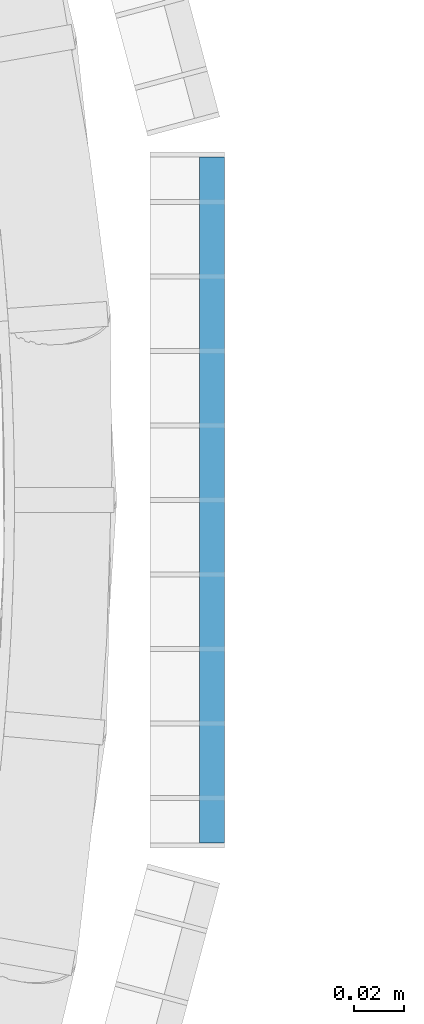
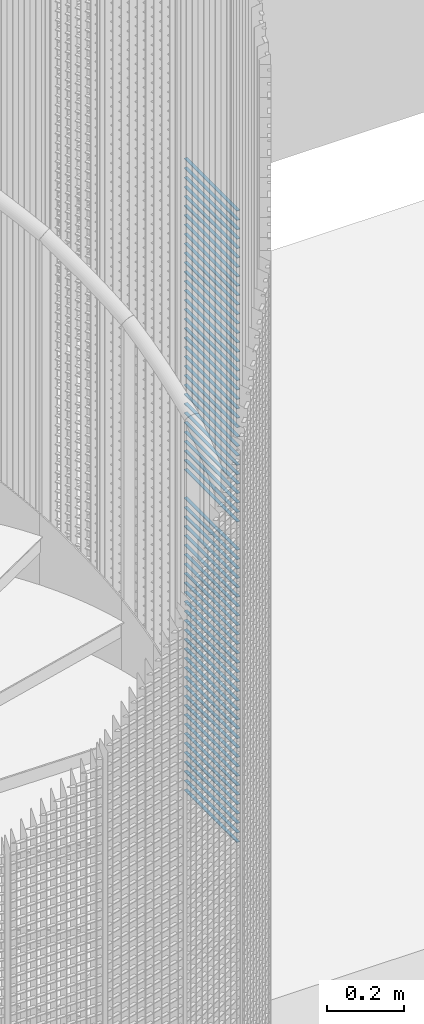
# One storey, part 290 of 1183: 66 beams, 1 element without a shape of its own.
"""IFC2X3 building model written with IfcOpenShell, lengths in millimetres."""

import ifcopenshell
import ifcopenshell.guid

model = None  # the IFC model being written
_history = None  # IfcOwnerHistory: only IFC2X3 demands one
_inside = {}  # id of a spatial element -> (the spatial element, [elements in it])
_under = {}  # id of a project, library or spatial element -> (it, [spatial elements below it])
_declared = {}  # id of a project -> (the project, [libraries it declares])
_typed = {}  # id of a type object -> (the type object, [elements of that type])
_made_of = {}  # id of a material, layer set ... -> (it, [elements and type objects made of it])


def new_model(schema):
    """Start an empty IFC model of exactly this schema.

    Asked for "IFC4X3", IfcOpenShell would pick the latest addendum, in which some entities
    have other attributes; the version numbers below select the first issue.
    IFC2X3 requires an IfcOwnerHistory on every rooted entity: one is made here for all.
    """
    global model, _history
    if schema == "IFC4X3":
        model = ifcopenshell.file(schema_version=(4, 3, 0, 0))
    else:
        model = ifcopenshell.file(schema=schema)
    _inside.clear()
    _under.clear()
    _declared.clear()
    _typed.clear()
    _made_of.clear()
    _history = None
    if model.schema == "IFC2X3":
        org = make("IfcOrganization", Name="unknown")
        user = make(
            "IfcPersonAndOrganization",
            ThePerson=make("IfcPerson", FamilyName="unknown"),
            TheOrganization=org,
        )
        app = make(
            "IfcApplication",
            ApplicationDeveloper=org,
            Version="unknown",
            ApplicationFullName="unknown",
            ApplicationIdentifier="unknown",
        )
        _history = make(
            "IfcOwnerHistory",
            OwningUser=user,
            OwningApplication=app,
            ChangeAction="ADDED",
            CreationDate=0,
        )
    return model


def make(cls, **values):
    """One entity of the class cls with the attributes given. An attribute that is None is left unset."""
    return model.create_entity(
        cls, **{name: value for name, value in values.items() if value is not None}
    )


def rooted(cls, **values):
    """An entity with a GlobalId (a new one), such as an element, a storey or a relation."""
    return make(cls, GlobalId=ifcopenshell.guid.new(), OwnerHistory=_history, **values)


def si_unit(unit_type, name, prefix=None):
    """IfcSIUnit, for example si_unit("LENGTHUNIT", "METRE", prefix="MILLI")."""
    return make("IfcSIUnit", UnitType=unit_type, Prefix=prefix, Name=name)


def assignment(units):
    """IfcUnitAssignment: the units of a project."""
    return None if units is None else make("IfcUnitAssignment", Units=units)


def point(xyz):
    """IfcCartesianPoint."""
    return None if xyz is None else make("IfcCartesianPoint", Coordinates=xyz)


def direction(xyz):
    """IfcDirection."""
    return None if xyz is None else make("IfcDirection", DirectionRatios=xyz)


def frame(location, z_axis=None, x_axis=None):
    """IfcAxis2Placement3D, a coordinate frame: its origin and axes. An axis left out is left unset."""
    return make(
        "IfcAxis2Placement3D",
        Location=point(location),
        Axis=direction(z_axis),
        RefDirection=direction(x_axis),
    )


def frame_2d(location, x_axis=None):
    """IfcAxis2Placement2D, a coordinate frame in the plane: its origin and x axis."""
    return make(
        "IfcAxis2Placement2D", Location=point(location), RefDirection=direction(x_axis)
    )


def origin_with_axes():
    """The frame at (0, 0, 0) with the z axis (0, 0, 1) and the x axis (1, 0, 0) written out."""
    return frame((0.0, 0.0, 0.0), z_axis=(0.0, 0.0, 1.0), x_axis=(1.0, 0.0, 0.0))


def origin_2d_with_axis():
    """The frame at (0, 0) in the plane with the x axis (1, 0) written out."""
    return frame_2d((0.0, 0.0), x_axis=(1.0, 0.0))


def place(relative_to, where):
    """IfcLocalPlacement: puts the frame where relative to a parent placement (None: the world)."""
    return make(
        "IfcLocalPlacement", PlacementRelTo=relative_to, RelativePlacement=where
    )


def context(
    kind, dimensions, precision=None, world=None, true_north=None, identifier=None
):
    """IfcGeometricRepresentationContext, for example the 3D "Model" context."""
    return make(
        "IfcGeometricRepresentationContext",
        ContextIdentifier=identifier,
        ContextType=kind,
        CoordinateSpaceDimension=dimensions,
        Precision=precision,
        WorldCoordinateSystem=world,
        TrueNorth=true_north,
    )


def subcontext(parent, identifier, kind, view, scale=None):
    """IfcGeometricRepresentationSubContext, for example "Body" below "Model"."""
    return make(
        "IfcGeometricRepresentationSubContext",
        ContextIdentifier=identifier,
        ContextType=kind,
        ParentContext=parent,
        TargetScale=scale,
        TargetView=view,
    )


def project(units=None, contexts=None):
    """IfcProject with its units and contexts."""
    return rooted(
        "IfcProject",
        Name="project",
        RepresentationContexts=contexts,
        UnitsInContext=assignment(units),
    )


def spatial(cls, under=None, at=None, **own):
    """A site, building, storey or space (cls), placed at a placement, below another one or the project."""
    s = rooted(cls, ObjectPlacement=at, **own)
    if under is not None:
        _under.setdefault(under.id(), (under, []))[1].append(s)
    return s


def profile(cls, at=None, kind="AREA", **sizes):
    """A parametric profile (cls). Its sizes go by their IFC names, for example OverallWidth=200.0."""
    return make(cls, ProfileType=kind, Position=at, **sizes)


def rectangle(**sizes):
    """IfcRectangleProfileDef."""
    return profile("IfcRectangleProfileDef", **sizes)


def extrude(swept, where, along, depth):
    """IfcExtrudedAreaSolid: the profile swept, set in the frame where, extruded along a direction by depth."""
    return make(
        "IfcExtrudedAreaSolid",
        SweptArea=swept,
        Position=where,
        ExtrudedDirection=direction(along),
        Depth=depth,
    )


def shape(context_of_items, identifier, shape_type, items):
    """IfcShapeRepresentation: the items that make up one representation, for example the "Body"."""
    return make(
        "IfcShapeRepresentation",
        ContextOfItems=context_of_items,
        RepresentationIdentifier=identifier,
        RepresentationType=shape_type,
        Items=items,
    )


def material(Name=None, Category=None):
    """IfcMaterial."""
    return make("IfcMaterial", Name=Name, Category=Category)


def made_of(thing, what):
    """Note that an element or type object is made of a material, layer set ...; save() writes the relation."""
    if what is not None:
        _made_of.setdefault(what.id(), (what, []))[1].append(thing)
    return thing


def type_object(cls, material=None, **own):
    """A type object (cls), such as IfcWallType, which elements share."""
    return made_of(rooted(cls, **own), material)


def element(
    cls,
    number,
    at=None,
    inside=None,
    cuts=None,
    type_object=None,
    material=None,
    context=None,
    identifier="Body",
    shape_type=None,
    held_by="IfcProductDefinitionShape",
    body=None,
    shapes=None,
    **own,
):
    """One element of the class cls, such as IfcWall. Its Tag is "e" and its number.

    at: its placement. inside: the storey or other place that contains it. cuts: it is an
    opening in that element (IfcRelVoidsElement). A single representation is given by context,
    identifier, shape_type and body (its items); several are given by shapes. held_by: the class
    of the entity that holds the representations. save() writes the other relations.
    """
    e = rooted(cls, Tag="e%d" % number, ObjectPlacement=at, **own)
    if body is not None:
        shapes = [shape(context, identifier, shape_type, body)]
    if shapes is not None:
        e.Representation = make(held_by, Representations=shapes)
    if inside is not None:
        _inside.setdefault(inside.id(), (inside, []))[1].append(e)
    if cuts is not None:
        rooted(
            "IfcRelVoidsElement", RelatingBuildingElement=cuts, RelatedOpeningElement=e
        )
    if type_object is not None:
        _typed.setdefault(type_object.id(), (type_object, []))[1].append(e)
    return made_of(e, material)


def aggregate(whole, parts):
    """IfcRelAggregates: a whole, such as a stair, and the parts it consists of."""
    return rooted("IfcRelAggregates", RelatingObject=whole, RelatedObjects=parts)


def save(model, path):
    """Write the relations noted so far, then the file.

    IfcRelAggregates (storeys below a building ...), IfcRelContainedInSpatialStructure (elements
    in a storey), IfcRelDefinesByType, IfcRelAssociatesMaterial and IfcRelDeclares: one each for
    every whole, place, type object, material and project.
    """
    for whole, parts in _under.values():
        aggregate(whole, parts)
    for where, things in _inside.values():
        rooted(
            "IfcRelContainedInSpatialStructure",
            RelatedElements=things,
            RelatingStructure=where,
        )
    for kind, things in _typed.values():
        rooted("IfcRelDefinesByType", RelatedObjects=things, RelatingType=kind)
    for what, things in _made_of.values():
        rooted("IfcRelAssociatesMaterial", RelatedObjects=things, RelatingMaterial=what)
    for by, libraries in _declared.values():
        rooted("IfcRelDeclares", RelatingContext=by, RelatedDefinitions=libraries)
    model.write(path)


model = new_model("IFC2X3")

# Units and contexts
model_context = context("Model", 3, precision=1e-05, world=origin_with_axes())
body_context = subcontext(model_context, "Body", "Model", "MODEL_VIEW")
ifc_project = project(units=[si_unit("LENGTHUNIT", "METRE", prefix="MILLI"), si_unit("AREAUNIT", "SQUARE_METRE"), si_unit("VOLUMEUNIT", "CUBIC_METRE"), si_unit("MASSUNIT", "GRAM", prefix="KILO"), si_unit("TIMEUNIT", "SECOND"), si_unit("PLANEANGLEUNIT", "RADIAN"), si_unit("SOLIDANGLEUNIT", "STERADIAN"), si_unit("THERMODYNAMICTEMPERATUREUNIT", "DEGREE_CELSIUS"), si_unit("LUMINOUSINTENSITYUNIT", "LUMEN")], contexts=[model_context])

# Site, building, storey
site_placement = place(None, origin_with_axes())
site = spatial("IfcSite", under=ifc_project, at=site_placement, Name="Undefined", CompositionType="ELEMENT")
building_placement = place(site_placement, origin_with_axes())
building = spatial("IfcBuilding", under=site, at=building_placement, Name="Undefined", CompositionType="ELEMENT")
storey_placement = place(building_placement, origin_with_axes())
storey = spatial("IfcBuildingStorey", under=building, at=storey_placement, Name="Undefined", CompositionType="ELEMENT", Elevation=0.0)

# Assembly, beams
assembly_placement = place(storey_placement, origin_with_axes())
assembly = element("IfcElementAssembly", 1, at=assembly_placement, inside=storey, Name="BORDURE", AssemblyPlace="NOTDEFINED", PredefinedType="NOTDEFINED")
ifc_material = material(Name="STEEL/S235JR")
beam_type = type_object("IfcBeamType", Name="PL2*10", PredefinedType="NOTDEFINED")
beam_1_placement = place(assembly_placement, frame((1113.47999999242, -137.996003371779, 11130.0), z_axis=(1.0, 0.0, 0.0), x_axis=(0.0, 1.0, 0.0)))
beam_1 = element("IfcBeam", 2, at=beam_1_placement, type_object=beam_type, material=ifc_material, Name="ENTRETOISE", context=body_context, shape_type="SweptSolid", body=[
    extrude(rectangle(XDim=2.0, YDim=10.0, at=origin_2d_with_axis()), frame((275.999999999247, 9.09494701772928e-13, 1.53210777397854e-14), z_axis=(-1.0, 0.0, 0.0), x_axis=(0.0, -1.0, 0.0)), (0.0, 0.0, 1.0), 276.0),
])
beam_2_placement = place(assembly_placement, frame((1113.47999999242, -137.996003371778, 11100.0), z_axis=(1.0, 0.0, 0.0), x_axis=(0.0, 1.0, 0.0)))
beam_2 = element("IfcBeam", 3, at=beam_2_placement, type_object=beam_type, material=ifc_material, Name="ENTRETOISE", context=body_context, shape_type="SweptSolid", body=[
    extrude(rectangle(XDim=2.0, YDim=10.0, at=origin_2d_with_axis()), frame((275.999999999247, 9.09494701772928e-13, 1.53210777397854e-14), z_axis=(-1.0, 0.0, 0.0), x_axis=(0.0, -1.0, 0.0)), (0.0, 0.0, 1.0), 276.0),
])
beam_3_placement = place(assembly_placement, frame((1113.47999999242, -137.996003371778, 11070.0), z_axis=(1.0, 0.0, 0.0), x_axis=(0.0, 1.0, 0.0)))
beam_3 = element("IfcBeam", 4, at=beam_3_placement, type_object=beam_type, material=ifc_material, Name="ENTRETOISE", context=body_context, shape_type="SweptSolid", body=[
    extrude(rectangle(XDim=2.0, YDim=10.0, at=origin_2d_with_axis()), frame((275.999999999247, 9.09494701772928e-13, 1.53210777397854e-14), z_axis=(-1.0, 0.0, 0.0), x_axis=(0.0, -1.0, 0.0)), (0.0, 0.0, 1.0), 276.0),
])
beam_4_placement = place(assembly_placement, frame((1113.47999999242, -137.996003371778, 11040.0), z_axis=(1.0, 0.0, 0.0), x_axis=(0.0, 1.0, 0.0)))
beam_4 = element("IfcBeam", 5, at=beam_4_placement, type_object=beam_type, material=ifc_material, Name="ENTRETOISE", context=body_context, shape_type="SweptSolid", body=[
    extrude(rectangle(XDim=2.0, YDim=10.0, at=origin_2d_with_axis()), frame((275.999999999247, 9.09494701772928e-13, 1.53210777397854e-14), z_axis=(-1.0, 0.0, 0.0), x_axis=(0.0, -1.0, 0.0)), (0.0, 0.0, 1.0), 276.0),
])
beam_5_placement = place(assembly_placement, frame((1113.47999999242, -137.996003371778, 11010.0), z_axis=(1.0, 0.0, 0.0), x_axis=(0.0, 1.0, 0.0)))
beam_5 = element("IfcBeam", 6, at=beam_5_placement, type_object=beam_type, material=ifc_material, Name="ENTRETOISE", context=body_context, shape_type="SweptSolid", body=[
    extrude(rectangle(XDim=2.0, YDim=10.0, at=origin_2d_with_axis()), frame((275.999999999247, 9.09494701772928e-13, 1.53210777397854e-14), z_axis=(-1.0, 0.0, 0.0), x_axis=(0.0, -1.0, 0.0)), (0.0, 0.0, 1.0), 276.0),
])
beam_6_placement = place(assembly_placement, frame((1113.47999999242, -137.996003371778, 10980.0), z_axis=(1.0, 0.0, 0.0), x_axis=(0.0, 1.0, 0.0)))
beam_6 = element("IfcBeam", 7, at=beam_6_placement, type_object=beam_type, material=ifc_material, Name="ENTRETOISE", context=body_context, shape_type="SweptSolid", body=[
    extrude(rectangle(XDim=2.0, YDim=10.0, at=origin_2d_with_axis()), frame((275.999999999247, 9.09494701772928e-13, 1.53210777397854e-14), z_axis=(-1.0, 0.0, 0.0), x_axis=(0.0, -1.0, 0.0)), (0.0, 0.0, 1.0), 276.0),
])
beam_7_placement = place(assembly_placement, frame((1113.47999999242, -137.996003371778, 10950.0), z_axis=(1.0, 0.0, 0.0), x_axis=(0.0, 1.0, 0.0)))
beam_7 = element("IfcBeam", 8, at=beam_7_placement, type_object=beam_type, material=ifc_material, Name="ENTRETOISE", context=body_context, shape_type="SweptSolid", body=[
    extrude(rectangle(XDim=2.0, YDim=10.0, at=origin_2d_with_axis()), frame((275.999999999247, 9.09494701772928e-13, 1.53210777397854e-14), z_axis=(-1.0, 0.0, 0.0), x_axis=(0.0, -1.0, 0.0)), (0.0, 0.0, 1.0), 276.0),
])
beam_8_placement = place(assembly_placement, frame((1113.47999999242, -137.996003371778, 10920.0), z_axis=(1.0, 0.0, 0.0), x_axis=(0.0, 1.0, 0.0)))
beam_8 = element("IfcBeam", 9, at=beam_8_placement, type_object=beam_type, material=ifc_material, Name="ENTRETOISE", context=body_context, shape_type="SweptSolid", body=[
    extrude(rectangle(XDim=2.0, YDim=10.0, at=origin_2d_with_axis()), frame((275.999999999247, 9.09494701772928e-13, 1.53210777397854e-14), z_axis=(-1.0, 0.0, 0.0), x_axis=(0.0, -1.0, 0.0)), (0.0, 0.0, 1.0), 276.0),
])
beam_9_placement = place(assembly_placement, frame((1113.47999999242, -137.996003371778, 10890.0), z_axis=(1.0, 0.0, 0.0), x_axis=(0.0, 1.0, 0.0)))
beam_9 = element("IfcBeam", 10, at=beam_9_placement, type_object=beam_type, material=ifc_material, Name="ENTRETOISE", context=body_context, shape_type="SweptSolid", body=[
    extrude(rectangle(XDim=2.0, YDim=10.0, at=origin_2d_with_axis()), frame((275.999999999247, 9.09494701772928e-13, 1.53210777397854e-14), z_axis=(-1.0, 0.0, 0.0), x_axis=(0.0, -1.0, 0.0)), (0.0, 0.0, 1.0), 276.0),
])
beam_10_placement = place(assembly_placement, frame((1113.47999999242, -137.996003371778, 10860.0), z_axis=(1.0, 0.0, 0.0), x_axis=(0.0, 1.0, 0.0)))
beam_10 = element("IfcBeam", 11, at=beam_10_placement, type_object=beam_type, material=ifc_material, Name="ENTRETOISE", context=body_context, shape_type="SweptSolid", body=[
    extrude(rectangle(XDim=2.0, YDim=10.0, at=origin_2d_with_axis()), frame((275.999999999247, 9.09494701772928e-13, 1.53210777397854e-14), z_axis=(-1.0, 0.0, 0.0), x_axis=(0.0, -1.0, 0.0)), (0.0, 0.0, 1.0), 276.0),
])
beam_11_placement = place(assembly_placement, frame((1113.47999999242, -137.996003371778, 10830.0), z_axis=(1.0, 0.0, 0.0), x_axis=(0.0, 1.0, 0.0)))
beam_11 = element("IfcBeam", 12, at=beam_11_placement, type_object=beam_type, material=ifc_material, Name="ENTRETOISE", context=body_context, shape_type="SweptSolid", body=[
    extrude(rectangle(XDim=2.0, YDim=10.0, at=origin_2d_with_axis()), frame((275.999999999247, 9.09494701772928e-13, 1.53210777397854e-14), z_axis=(-1.0, 0.0, 0.0), x_axis=(0.0, -1.0, 0.0)), (0.0, 0.0, 1.0), 276.0),
])
beam_12_placement = place(assembly_placement, frame((1113.47999999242, -137.996003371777, 10800.0), z_axis=(1.0, 0.0, 0.0), x_axis=(0.0, 1.0, 0.0)))
beam_12 = element("IfcBeam", 13, at=beam_12_placement, type_object=beam_type, material=ifc_material, Name="ENTRETOISE", context=body_context, shape_type="SweptSolid", body=[
    extrude(rectangle(XDim=2.0, YDim=10.0, at=origin_2d_with_axis()), frame((275.999999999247, 9.09494701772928e-13, 1.53210777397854e-14), z_axis=(-1.0, 0.0, 0.0), x_axis=(0.0, -1.0, 0.0)), (0.0, 0.0, 1.0), 276.0),
])
beam_13_placement = place(assembly_placement, frame((1113.47999999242, -137.996003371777, 10770.0), z_axis=(1.0, 0.0, 0.0), x_axis=(0.0, 1.0, 0.0)))
beam_13 = element("IfcBeam", 14, at=beam_13_placement, type_object=beam_type, material=ifc_material, Name="ENTRETOISE", context=body_context, shape_type="SweptSolid", body=[
    extrude(rectangle(XDim=2.0, YDim=10.0, at=origin_2d_with_axis()), frame((275.999999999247, 9.09494701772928e-13, 1.53210777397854e-14), z_axis=(-1.0, 0.0, 0.0), x_axis=(0.0, -1.0, 0.0)), (0.0, 0.0, 1.0), 276.0),
])
beam_14_placement = place(assembly_placement, frame((1113.47999999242, -137.996003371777, 10740.0), z_axis=(1.0, 0.0, 0.0), x_axis=(0.0, 1.0, 0.0)))
beam_14 = element("IfcBeam", 15, at=beam_14_placement, type_object=beam_type, material=ifc_material, Name="ENTRETOISE", context=body_context, shape_type="SweptSolid", body=[
    extrude(rectangle(XDim=2.0, YDim=10.0, at=origin_2d_with_axis()), frame((275.999999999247, 9.09494701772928e-13, 1.53210777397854e-14), z_axis=(-1.0, 0.0, 0.0), x_axis=(0.0, -1.0, 0.0)), (0.0, 0.0, 1.0), 276.0),
])
beam_15_placement = place(assembly_placement, frame((1113.47999999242, -137.996003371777, 10710.0), z_axis=(1.0, 0.0, 0.0), x_axis=(0.0, 1.0, 0.0)))
beam_15 = element("IfcBeam", 16, at=beam_15_placement, type_object=beam_type, material=ifc_material, Name="ENTRETOISE", context=body_context, shape_type="SweptSolid", body=[
    extrude(rectangle(XDim=2.0, YDim=10.0, at=origin_2d_with_axis()), frame((275.999999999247, 9.09494701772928e-13, 1.53210777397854e-14), z_axis=(-1.0, 0.0, 0.0), x_axis=(0.0, -1.0, 0.0)), (0.0, 0.0, 1.0), 276.0),
])
beam_16_placement = place(assembly_placement, frame((1113.47999999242, -137.996003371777, 10680.0), z_axis=(1.0, 0.0, 0.0), x_axis=(0.0, 1.0, 0.0)))
beam_16 = element("IfcBeam", 17, at=beam_16_placement, type_object=beam_type, material=ifc_material, Name="ENTRETOISE", context=body_context, shape_type="SweptSolid", body=[
    extrude(rectangle(XDim=2.0, YDim=10.0, at=origin_2d_with_axis()), frame((275.999999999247, 9.09494701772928e-13, 1.53210777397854e-14), z_axis=(-1.0, 0.0, 0.0), x_axis=(0.0, -1.0, 0.0)), (0.0, 0.0, 1.0), 276.0),
])
beam_17_placement = place(assembly_placement, frame((1113.47999999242, -137.996003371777, 10650.0), z_axis=(1.0, 0.0, 0.0), x_axis=(0.0, 1.0, 0.0)))
beam_17 = element("IfcBeam", 18, at=beam_17_placement, type_object=beam_type, material=ifc_material, Name="ENTRETOISE", context=body_context, shape_type="SweptSolid", body=[
    extrude(rectangle(XDim=2.0, YDim=10.0, at=origin_2d_with_axis()), frame((275.999999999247, 9.09494701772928e-13, 1.53210777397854e-14), z_axis=(-1.0, 0.0, 0.0), x_axis=(0.0, -1.0, 0.0)), (0.0, 0.0, 1.0), 276.0),
])
beam_18_placement = place(assembly_placement, frame((1113.47999999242, -137.996003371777, 10620.0), z_axis=(1.0, 0.0, 0.0), x_axis=(0.0, 1.0, 0.0)))
beam_18 = element("IfcBeam", 19, at=beam_18_placement, type_object=beam_type, material=ifc_material, Name="ENTRETOISE", context=body_context, shape_type="SweptSolid", body=[
    extrude(rectangle(XDim=2.0, YDim=10.0, at=origin_2d_with_axis()), frame((275.999999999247, 9.09494701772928e-13, 1.53210777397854e-14), z_axis=(-1.0, 0.0, 0.0), x_axis=(0.0, -1.0, 0.0)), (0.0, 0.0, 1.0), 276.0),
])
beam_19_placement = place(assembly_placement, frame((1113.47999999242, -137.996003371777, 10590.0), z_axis=(1.0, 0.0, 0.0), x_axis=(0.0, 1.0, 0.0)))
beam_19 = element("IfcBeam", 20, at=beam_19_placement, type_object=beam_type, material=ifc_material, Name="ENTRETOISE", context=body_context, shape_type="SweptSolid", body=[
    extrude(rectangle(XDim=2.0, YDim=10.0, at=origin_2d_with_axis()), frame((275.999999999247, 9.09494701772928e-13, 1.53210777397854e-14), z_axis=(-1.0, 0.0, 0.0), x_axis=(0.0, -1.0, 0.0)), (0.0, 0.0, 1.0), 276.0),
])
beam_20_placement = place(assembly_placement, frame((1113.47999999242, -137.996003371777, 10560.0), z_axis=(1.0, 0.0, 0.0), x_axis=(0.0, 1.0, 0.0)))
beam_20 = element("IfcBeam", 21, at=beam_20_placement, type_object=beam_type, material=ifc_material, Name="ENTRETOISE", context=body_context, shape_type="SweptSolid", body=[
    extrude(rectangle(XDim=2.0, YDim=10.0, at=origin_2d_with_axis()), frame((275.999999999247, 9.09494701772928e-13, 1.53210777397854e-14), z_axis=(-1.0, 0.0, 0.0), x_axis=(0.0, -1.0, 0.0)), (0.0, 0.0, 1.0), 276.0),
])
beam_21_placement = place(assembly_placement, frame((1113.47999999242, -137.996003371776, 10530.0), z_axis=(1.0, 0.0, 0.0), x_axis=(0.0, 1.0, 0.0)))
beam_21 = element("IfcBeam", 22, at=beam_21_placement, type_object=beam_type, material=ifc_material, Name="ENTRETOISE", context=body_context, shape_type="SweptSolid", body=[
    extrude(rectangle(XDim=2.0, YDim=10.0, at=origin_2d_with_axis()), frame((275.999999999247, 9.09494701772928e-13, 1.53210777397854e-14), z_axis=(-1.0, 0.0, 0.0), x_axis=(0.0, -1.0, 0.0)), (0.0, 0.0, 1.0), 276.0),
])
beam_22_placement = place(assembly_placement, frame((1113.47999999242, -137.996003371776, 10500.0), z_axis=(1.0, 0.0, 0.0), x_axis=(0.0, 1.0, 0.0)))
beam_22 = element("IfcBeam", 23, at=beam_22_placement, type_object=beam_type, material=ifc_material, Name="ENTRETOISE", context=body_context, shape_type="SweptSolid", body=[
    extrude(rectangle(XDim=2.0, YDim=10.0, at=origin_2d_with_axis()), frame((275.999999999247, 9.09494701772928e-13, 1.53210777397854e-14), z_axis=(-1.0, 0.0, 0.0), x_axis=(0.0, -1.0, 0.0)), (0.0, 0.0, 1.0), 276.0),
])
beam_23_placement = place(assembly_placement, frame((1113.47999999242, -137.996003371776, 10470.0), z_axis=(1.0, 0.0, 0.0), x_axis=(0.0, 1.0, 0.0)))
beam_23 = element("IfcBeam", 24, at=beam_23_placement, type_object=beam_type, material=ifc_material, Name="ENTRETOISE", context=body_context, shape_type="SweptSolid", body=[
    extrude(rectangle(XDim=2.0, YDim=10.0, at=origin_2d_with_axis()), frame((275.999999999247, 9.09494701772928e-13, 1.53210777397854e-14), z_axis=(-1.0, 0.0, 0.0), x_axis=(0.0, -1.0, 0.0)), (0.0, 0.0, 1.0), 276.0),
])
beam_24_placement = place(assembly_placement, frame((1113.47999999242, -137.996003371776, 10440.0), z_axis=(1.0, 0.0, 0.0), x_axis=(0.0, 1.0, 0.0)))
beam_24 = element("IfcBeam", 25, at=beam_24_placement, type_object=beam_type, material=ifc_material, Name="ENTRETOISE", context=body_context, shape_type="SweptSolid", body=[
    extrude(rectangle(XDim=2.0, YDim=10.0, at=origin_2d_with_axis()), frame((275.999999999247, 9.09494701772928e-13, 1.53210777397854e-14), z_axis=(-1.0, 0.0, 0.0), x_axis=(0.0, -1.0, 0.0)), (0.0, 0.0, 1.0), 276.0),
])
beam_25_placement = place(assembly_placement, frame((1113.47999999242, -137.996003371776, 10410.0), z_axis=(1.0, 0.0, 0.0), x_axis=(0.0, 1.0, 0.0)))
beam_25 = element("IfcBeam", 26, at=beam_25_placement, type_object=beam_type, material=ifc_material, Name="ENTRETOISE", context=body_context, shape_type="SweptSolid", body=[
    extrude(rectangle(XDim=2.0, YDim=10.0, at=origin_2d_with_axis()), frame((275.999999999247, 9.09494701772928e-13, 1.53210777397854e-14), z_axis=(-1.0, 0.0, 0.0), x_axis=(0.0, -1.0, 0.0)), (0.0, 0.0, 1.0), 276.0),
])
beam_26_placement = place(assembly_placement, frame((1113.47999999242, -137.996003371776, 10380.0), z_axis=(1.0, 0.0, 0.0), x_axis=(0.0, 1.0, 0.0)))
beam_26 = element("IfcBeam", 27, at=beam_26_placement, type_object=beam_type, material=ifc_material, Name="ENTRETOISE", context=body_context, shape_type="SweptSolid", body=[
    extrude(rectangle(XDim=2.0, YDim=10.0, at=origin_2d_with_axis()), frame((275.999999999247, 9.09494701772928e-13, 1.53210777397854e-14), z_axis=(-1.0, 0.0, 0.0), x_axis=(0.0, -1.0, 0.0)), (0.0, 0.0, 1.0), 276.0),
])
beam_27_placement = place(assembly_placement, frame((1113.47999999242, -137.996003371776, 10350.0), z_axis=(1.0, 0.0, 0.0), x_axis=(0.0, 1.0, 0.0)))
beam_27 = element("IfcBeam", 28, at=beam_27_placement, type_object=beam_type, material=ifc_material, Name="ENTRETOISE", context=body_context, shape_type="SweptSolid", body=[
    extrude(rectangle(XDim=2.0, YDim=10.0, at=origin_2d_with_axis()), frame((275.999999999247, 9.09494701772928e-13, 1.53210777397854e-14), z_axis=(-1.0, 0.0, 0.0), x_axis=(0.0, -1.0, 0.0)), (0.0, 0.0, 1.0), 276.0),
])
beam_28_placement = place(assembly_placement, frame((1113.47999999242, -137.996003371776, 10320.0), z_axis=(1.0, 0.0, 0.0), x_axis=(0.0, 1.0, 0.0)))
beam_28 = element("IfcBeam", 29, at=beam_28_placement, type_object=beam_type, material=ifc_material, Name="ENTRETOISE", context=body_context, shape_type="SweptSolid", body=[
    extrude(rectangle(XDim=2.0, YDim=10.0, at=origin_2d_with_axis()), frame((275.999999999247, 9.09494701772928e-13, 1.53210777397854e-14), z_axis=(-1.0, 0.0, 0.0), x_axis=(0.0, -1.0, 0.0)), (0.0, 0.0, 1.0), 276.0),
])
beam_29_placement = place(assembly_placement, frame((1113.47999999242, -137.996003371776, 10290.0), z_axis=(1.0, 0.0, 0.0), x_axis=(0.0, 1.0, 0.0)))
beam_29 = element("IfcBeam", 30, at=beam_29_placement, type_object=beam_type, material=ifc_material, Name="ENTRETOISE", context=body_context, shape_type="SweptSolid", body=[
    extrude(rectangle(XDim=2.0, YDim=10.0, at=origin_2d_with_axis()), frame((275.999999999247, 9.09494701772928e-13, 1.53210777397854e-14), z_axis=(-1.0, 0.0, 0.0), x_axis=(0.0, -1.0, 0.0)), (0.0, 0.0, 1.0), 276.0),
])
beam_30_placement = place(assembly_placement, frame((1113.47999999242, -137.996003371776, 10260.0), z_axis=(1.0, 0.0, 0.0), x_axis=(0.0, 1.0, 0.0)))
beam_30 = element("IfcBeam", 31, at=beam_30_placement, type_object=beam_type, material=ifc_material, Name="ENTRETOISE", context=body_context, shape_type="SweptSolid", body=[
    extrude(rectangle(XDim=2.0, YDim=10.0, at=origin_2d_with_axis()), frame((275.999999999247, 9.09494701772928e-13, 1.53210777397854e-14), z_axis=(-1.0, 0.0, 0.0), x_axis=(0.0, -1.0, 0.0)), (0.0, 0.0, 1.0), 276.0),
])
beam_31_placement = place(assembly_placement, frame((1113.47999999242, -137.996003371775, 10230.0), z_axis=(1.0, 0.0, 0.0), x_axis=(0.0, 1.0, 0.0)))
beam_31 = element("IfcBeam", 32, at=beam_31_placement, type_object=beam_type, material=ifc_material, Name="ENTRETOISE", context=body_context, shape_type="SweptSolid", body=[
    extrude(rectangle(XDim=2.0, YDim=10.0, at=origin_2d_with_axis()), frame((275.999999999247, 9.09494701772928e-13, 1.53210777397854e-14), z_axis=(-1.0, 0.0, 0.0), x_axis=(0.0, -1.0, 0.0)), (0.0, 0.0, 1.0), 276.0),
])
beam_32_placement = place(assembly_placement, frame((1113.47999999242, -137.996003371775, 10200.0), z_axis=(1.0, 0.0, 0.0), x_axis=(0.0, 1.0, 0.0)))
beam_32 = element("IfcBeam", 33, at=beam_32_placement, type_object=beam_type, material=ifc_material, Name="ENTRETOISE", context=body_context, shape_type="SweptSolid", body=[
    extrude(rectangle(XDim=2.0, YDim=10.0, at=origin_2d_with_axis()), frame((275.999999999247, 9.09494701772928e-13, 1.53210777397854e-14), z_axis=(-1.0, 0.0, 0.0), x_axis=(0.0, -1.0, 0.0)), (0.0, 0.0, 1.0), 276.0),
])
beam_33_placement = place(assembly_placement, frame((1113.47999999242, -137.996003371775, 10170.0), z_axis=(1.0, 0.0, 0.0), x_axis=(0.0, 1.0, 0.0)))
beam_33 = element("IfcBeam", 34, at=beam_33_placement, type_object=beam_type, material=ifc_material, Name="ENTRETOISE", context=body_context, shape_type="SweptSolid", body=[
    extrude(rectangle(XDim=2.0, YDim=10.0, at=origin_2d_with_axis()), frame((275.999999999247, 9.09494701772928e-13, 1.53210777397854e-14), z_axis=(-1.0, 0.0, 0.0), x_axis=(0.0, -1.0, 0.0)), (0.0, 0.0, 1.0), 276.0),
])
beam_34_placement = place(assembly_placement, frame((1113.47999999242, -137.996003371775, 10140.0), z_axis=(1.0, 0.0, 0.0), x_axis=(0.0, 1.0, 0.0)))
beam_34 = element("IfcBeam", 35, at=beam_34_placement, type_object=beam_type, material=ifc_material, Name="ENTRETOISE", context=body_context, shape_type="SweptSolid", body=[
    extrude(rectangle(XDim=2.0, YDim=10.0, at=origin_2d_with_axis()), frame((275.999999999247, 9.09494701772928e-13, 1.53210777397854e-14), z_axis=(-1.0, 0.0, 0.0), x_axis=(0.0, -1.0, 0.0)), (0.0, 0.0, 1.0), 276.0),
])
beam_35_placement = place(assembly_placement, frame((1113.47999999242, -137.996003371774, 9720.0), z_axis=(1.0, 0.0, 0.0), x_axis=(0.0, 1.0, 0.0)))
beam_35 = element("IfcBeam", 36, at=beam_35_placement, type_object=beam_type, material=ifc_material, Name="ENTRETOISE", context=body_context, shape_type="SweptSolid", body=[
    extrude(rectangle(XDim=2.0, YDim=10.0, at=origin_2d_with_axis()), frame((275.999999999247, 9.09494701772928e-13, 1.53210777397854e-14), z_axis=(-1.0, 0.0, 0.0), x_axis=(0.0, -1.0, 0.0)), (0.0, 0.0, 1.0), 276.0),
])
beam_36_placement = place(assembly_placement, frame((1113.47999999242, -137.996003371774, 9690.0), z_axis=(1.0, 0.0, 0.0), x_axis=(0.0, 1.0, 0.0)))
beam_36 = element("IfcBeam", 37, at=beam_36_placement, type_object=beam_type, material=ifc_material, Name="ENTRETOISE", context=body_context, shape_type="SweptSolid", body=[
    extrude(rectangle(XDim=2.0, YDim=10.0, at=origin_2d_with_axis()), frame((275.999999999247, 9.09494701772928e-13, 1.53210777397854e-14), z_axis=(-1.0, 0.0, 0.0), x_axis=(0.0, -1.0, 0.0)), (0.0, 0.0, 1.0), 276.0),
])
beam_37_placement = place(assembly_placement, frame((1113.47999999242, -137.996003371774, 9750.0), z_axis=(1.0, 0.0, 0.0), x_axis=(0.0, 1.0, 0.0)))
beam_37 = element("IfcBeam", 38, at=beam_37_placement, type_object=beam_type, material=ifc_material, Name="ENTRETOISE", context=body_context, shape_type="SweptSolid", body=[
    extrude(rectangle(XDim=2.0, YDim=10.0, at=origin_2d_with_axis()), frame((275.999999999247, 9.09494701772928e-13, 1.53210777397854e-14), z_axis=(-1.0, 0.0, 0.0), x_axis=(0.0, -1.0, 0.0)), (0.0, 0.0, 1.0), 276.0),
])
beam_38_placement = place(assembly_placement, frame((1113.47999999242, -137.996003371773, 9660.0), z_axis=(1.0, 0.0, 0.0), x_axis=(0.0, 1.0, 0.0)))
beam_38 = element("IfcBeam", 39, at=beam_38_placement, type_object=beam_type, material=ifc_material, Name="ENTRETOISE", context=body_context, shape_type="SweptSolid", body=[
    extrude(rectangle(XDim=2.0, YDim=10.0, at=origin_2d_with_axis()), frame((275.999999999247, 9.09494701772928e-13, 1.53210777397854e-14), z_axis=(-1.0, 0.0, 0.0), x_axis=(0.0, -1.0, 0.0)), (0.0, 0.0, 1.0), 276.0),
])
beam_39_placement = place(assembly_placement, frame((1113.47999999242, -137.996003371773, 9630.0), z_axis=(1.0, 0.0, 0.0), x_axis=(0.0, 1.0, 0.0)))
beam_39 = element("IfcBeam", 40, at=beam_39_placement, type_object=beam_type, material=ifc_material, Name="ENTRETOISE", context=body_context, shape_type="SweptSolid", body=[
    extrude(rectangle(XDim=2.0, YDim=10.0, at=origin_2d_with_axis()), frame((275.999999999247, 9.09494701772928e-13, 1.53210777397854e-14), z_axis=(-1.0, 0.0, 0.0), x_axis=(0.0, -1.0, 0.0)), (0.0, 0.0, 1.0), 276.0),
])
beam_40_placement = place(assembly_placement, frame((1113.47999999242, -137.996003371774, 9780.0), z_axis=(1.0, 0.0, 0.0), x_axis=(0.0, 1.0, 0.0)))
beam_40 = element("IfcBeam", 41, at=beam_40_placement, type_object=beam_type, material=ifc_material, Name="ENTRETOISE", context=body_context, shape_type="SweptSolid", body=[
    extrude(rectangle(XDim=2.0, YDim=10.0, at=origin_2d_with_axis()), frame((275.999999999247, 9.09494701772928e-13, 1.53210777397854e-14), z_axis=(-1.0, 0.0, 0.0), x_axis=(0.0, -1.0, 0.0)), (0.0, 0.0, 1.0), 276.0),
])
beam_41_placement = place(assembly_placement, frame((1113.47999999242, -137.996003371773, 9600.0), z_axis=(1.0, 0.0, 0.0), x_axis=(0.0, 1.0, 0.0)))
beam_41 = element("IfcBeam", 42, at=beam_41_placement, type_object=beam_type, material=ifc_material, Name="ENTRETOISE", context=body_context, shape_type="SweptSolid", body=[
    extrude(rectangle(XDim=2.0, YDim=10.0, at=origin_2d_with_axis()), frame((275.999999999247, 9.09494701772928e-13, 1.53210777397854e-14), z_axis=(-1.0, 0.0, 0.0), x_axis=(0.0, -1.0, 0.0)), (0.0, 0.0, 1.0), 276.0),
])
beam_42_placement = place(assembly_placement, frame((1113.47999999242, -137.996003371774, 9810.0), z_axis=(1.0, 0.0, 0.0), x_axis=(0.0, 1.0, 0.0)))
beam_42 = element("IfcBeam", 43, at=beam_42_placement, type_object=beam_type, material=ifc_material, Name="ENTRETOISE", context=body_context, shape_type="SweptSolid", body=[
    extrude(rectangle(XDim=2.0, YDim=10.0, at=origin_2d_with_axis()), frame((275.999999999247, 9.09494701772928e-13, 1.53210777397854e-14), z_axis=(-1.0, 0.0, 0.0), x_axis=(0.0, -1.0, 0.0)), (0.0, 0.0, 1.0), 276.0),
])
beam_43_placement = place(assembly_placement, frame((1113.47999999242, -137.996003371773, 9570.0), z_axis=(1.0, 0.0, 0.0), x_axis=(0.0, 1.0, 0.0)))
beam_43 = element("IfcBeam", 44, at=beam_43_placement, type_object=beam_type, material=ifc_material, Name="ENTRETOISE", context=body_context, shape_type="SweptSolid", body=[
    extrude(rectangle(XDim=2.0, YDim=10.0, at=origin_2d_with_axis()), frame((275.999999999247, 9.09494701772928e-13, 1.53210777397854e-14), z_axis=(-1.0, 0.0, 0.0), x_axis=(0.0, -1.0, 0.0)), (0.0, 0.0, 1.0), 276.0),
])
beam_44_placement = place(assembly_placement, frame((1113.47999999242, -137.996003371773, 9540.0), z_axis=(1.0, 0.0, 0.0), x_axis=(0.0, 1.0, 0.0)))
beam_44 = element("IfcBeam", 45, at=beam_44_placement, type_object=beam_type, material=ifc_material, Name="ENTRETOISE", context=body_context, shape_type="SweptSolid", body=[
    extrude(rectangle(XDim=2.0, YDim=10.0, at=origin_2d_with_axis()), frame((275.999999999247, 9.09494701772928e-13, 1.53210777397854e-14), z_axis=(-1.0, 0.0, 0.0), x_axis=(0.0, -1.0, 0.0)), (0.0, 0.0, 1.0), 276.0),
])
beam_45_placement = place(assembly_placement, frame((1113.47999999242, -137.996003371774, 9840.0), z_axis=(1.0, 0.0, 0.0), x_axis=(0.0, 1.0, 0.0)))
beam_45 = element("IfcBeam", 46, at=beam_45_placement, type_object=beam_type, material=ifc_material, Name="ENTRETOISE", context=body_context, shape_type="SweptSolid", body=[
    extrude(rectangle(XDim=2.0, YDim=10.0, at=origin_2d_with_axis()), frame((275.999999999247, 9.09494701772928e-13, 1.53210777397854e-14), z_axis=(-1.0, 0.0, 0.0), x_axis=(0.0, -1.0, 0.0)), (0.0, 0.0, 1.0), 276.0),
])
beam_46_placement = place(assembly_placement, frame((1113.47999999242, -137.996003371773, 9510.0), z_axis=(1.0, 0.0, 0.0), x_axis=(0.0, 1.0, 0.0)))
beam_46 = element("IfcBeam", 47, at=beam_46_placement, type_object=beam_type, material=ifc_material, Name="ENTRETOISE", context=body_context, shape_type="SweptSolid", body=[
    extrude(rectangle(XDim=2.0, YDim=10.0, at=origin_2d_with_axis()), frame((275.999999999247, 9.09494701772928e-13, 1.53210777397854e-14), z_axis=(-1.0, 0.0, 0.0), x_axis=(0.0, -1.0, 0.0)), (0.0, 0.0, 1.0), 276.0),
])
beam_47_placement = place(assembly_placement, frame((1113.47999999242, -137.996003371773, 9480.0), z_axis=(1.0, 0.0, 0.0), x_axis=(0.0, 1.0, 0.0)))
beam_47 = element("IfcBeam", 48, at=beam_47_placement, type_object=beam_type, material=ifc_material, Name="ENTRETOISE", context=body_context, shape_type="SweptSolid", body=[
    extrude(rectangle(XDim=2.0, YDim=10.0, at=origin_2d_with_axis()), frame((275.999999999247, 9.09494701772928e-13, 1.53210777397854e-14), z_axis=(-1.0, 0.0, 0.0), x_axis=(0.0, -1.0, 0.0)), (0.0, 0.0, 1.0), 276.0),
])
beam_48_placement = place(assembly_placement, frame((1113.47999999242, -137.996003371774, 9870.0), z_axis=(1.0, 0.0, 0.0), x_axis=(0.0, 1.0, 0.0)))
beam_48 = element("IfcBeam", 49, at=beam_48_placement, type_object=beam_type, material=ifc_material, Name="ENTRETOISE", context=body_context, shape_type="SweptSolid", body=[
    extrude(rectangle(XDim=2.0, YDim=10.0, at=origin_2d_with_axis()), frame((275.999999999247, 9.09494701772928e-13, 1.53210777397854e-14), z_axis=(-1.0, 0.0, 0.0), x_axis=(0.0, -1.0, 0.0)), (0.0, 0.0, 1.0), 276.0),
])
beam_49_placement = place(assembly_placement, frame((1113.47999999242, -137.996003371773, 9450.0), z_axis=(1.0, 0.0, 0.0), x_axis=(0.0, 1.0, 0.0)))
beam_49 = element("IfcBeam", 50, at=beam_49_placement, type_object=beam_type, material=ifc_material, Name="ENTRETOISE", context=body_context, shape_type="SweptSolid", body=[
    extrude(rectangle(XDim=2.0, YDim=10.0, at=origin_2d_with_axis()), frame((275.999999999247, 9.09494701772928e-13, 1.53210777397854e-14), z_axis=(-1.0, 0.0, 0.0), x_axis=(0.0, -1.0, 0.0)), (0.0, 0.0, 1.0), 276.0),
])
beam_50_placement = place(assembly_placement, frame((1113.47999999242, -137.996003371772, 9420.0), z_axis=(1.0, 0.0, 0.0), x_axis=(0.0, 1.0, 0.0)))
beam_50 = element("IfcBeam", 51, at=beam_50_placement, type_object=beam_type, material=ifc_material, Name="ENTRETOISE", context=body_context, shape_type="SweptSolid", body=[
    extrude(rectangle(XDim=2.0, YDim=10.0, at=origin_2d_with_axis()), frame((275.999999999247, 9.09494701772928e-13, 1.53210777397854e-14), z_axis=(-1.0, 0.0, 0.0), x_axis=(0.0, -1.0, 0.0)), (0.0, 0.0, 1.0), 276.0),
])
beam_51_placement = place(assembly_placement, frame((1113.47999999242, -137.996003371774, 9900.0), z_axis=(1.0, 0.0, 0.0), x_axis=(0.0, 1.0, 0.0)))
beam_51 = element("IfcBeam", 52, at=beam_51_placement, type_object=beam_type, material=ifc_material, Name="ENTRETOISE", context=body_context, shape_type="SweptSolid", body=[
    extrude(rectangle(XDim=2.0, YDim=10.0, at=origin_2d_with_axis()), frame((275.999999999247, 9.09494701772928e-13, 1.53210777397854e-14), z_axis=(-1.0, 0.0, 0.0), x_axis=(0.0, -1.0, 0.0)), (0.0, 0.0, 1.0), 276.0),
])
beam_52_placement = place(assembly_placement, frame((1113.47999999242, -137.996003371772, 9390.0), z_axis=(1.0, 0.0, 0.0), x_axis=(0.0, 1.0, 0.0)))
beam_52 = element("IfcBeam", 53, at=beam_52_placement, type_object=beam_type, material=ifc_material, Name="ENTRETOISE", context=body_context, shape_type="SweptSolid", body=[
    extrude(rectangle(XDim=2.0, YDim=10.0, at=origin_2d_with_axis()), frame((275.999999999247, 9.09494701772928e-13, 1.53210777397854e-14), z_axis=(-1.0, 0.0, 0.0), x_axis=(0.0, -1.0, 0.0)), (0.0, 0.0, 1.0), 276.0),
])
beam_53_placement = place(assembly_placement, frame((1113.47999999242, -137.996003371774, 9930.0), z_axis=(1.0, 0.0, 0.0), x_axis=(0.0, 1.0, 0.0)))
beam_53 = element("IfcBeam", 54, at=beam_53_placement, type_object=beam_type, material=ifc_material, Name="ENTRETOISE", context=body_context, shape_type="SweptSolid", body=[
    extrude(rectangle(XDim=2.0, YDim=10.0, at=origin_2d_with_axis()), frame((275.999999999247, 9.09494701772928e-13, 1.53210777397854e-14), z_axis=(-1.0, 0.0, 0.0), x_axis=(0.0, -1.0, 0.0)), (0.0, 0.0, 1.0), 276.0),
])
beam_54_placement = place(assembly_placement, frame((1113.47999999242, -137.996003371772, 9360.0), z_axis=(1.0, 0.0, 0.0), x_axis=(0.0, 1.0, 0.0)))
beam_54 = element("IfcBeam", 55, at=beam_54_placement, type_object=beam_type, material=ifc_material, Name="ENTRETOISE", context=body_context, shape_type="SweptSolid", body=[
    extrude(rectangle(XDim=2.0, YDim=10.0, at=origin_2d_with_axis()), frame((275.999999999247, 9.09494701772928e-13, 1.53210777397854e-14), z_axis=(-1.0, 0.0, 0.0), x_axis=(0.0, -1.0, 0.0)), (0.0, 0.0, 1.0), 276.0),
])
beam_55_placement = place(assembly_placement, frame((1113.47999999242, -137.996003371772, 9330.0), z_axis=(1.0, 0.0, 0.0), x_axis=(0.0, 1.0, 0.0)))
beam_55 = element("IfcBeam", 56, at=beam_55_placement, type_object=beam_type, material=ifc_material, Name="ENTRETOISE", context=body_context, shape_type="SweptSolid", body=[
    extrude(rectangle(XDim=2.0, YDim=10.0, at=origin_2d_with_axis()), frame((275.999999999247, 9.09494701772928e-13, 1.53210777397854e-14), z_axis=(-1.0, 0.0, 0.0), x_axis=(0.0, -1.0, 0.0)), (0.0, 0.0, 1.0), 276.0),
])
beam_56_placement = place(assembly_placement, frame((1113.47999999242, -137.996003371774, 9960.0), z_axis=(1.0, 0.0, 0.0), x_axis=(0.0, 1.0, 0.0)))
beam_56 = element("IfcBeam", 57, at=beam_56_placement, type_object=beam_type, material=ifc_material, Name="ENTRETOISE", context=body_context, shape_type="SweptSolid", body=[
    extrude(rectangle(XDim=2.0, YDim=10.0, at=origin_2d_with_axis()), frame((275.999999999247, 9.09494701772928e-13, 1.53210777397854e-14), z_axis=(-1.0, 0.0, 0.0), x_axis=(0.0, -1.0, 0.0)), (0.0, 0.0, 1.0), 276.0),
])
beam_57_placement = place(assembly_placement, frame((1113.47999999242, -137.996003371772, 9300.0), z_axis=(1.0, 0.0, 0.0), x_axis=(0.0, 1.0, 0.0)))
beam_57 = element("IfcBeam", 58, at=beam_57_placement, type_object=beam_type, material=ifc_material, Name="ENTRETOISE", context=body_context, shape_type="SweptSolid", body=[
    extrude(rectangle(XDim=2.0, YDim=10.0, at=origin_2d_with_axis()), frame((275.999999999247, 9.09494701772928e-13, 1.53210777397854e-14), z_axis=(-1.0, 0.0, 0.0), x_axis=(0.0, -1.0, 0.0)), (0.0, 0.0, 1.0), 276.0),
])
beam_58_placement = place(assembly_placement, frame((1113.47999999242, -137.996003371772, 9270.0), z_axis=(1.0, 0.0, 0.0), x_axis=(0.0, 1.0, 0.0)))
beam_58 = element("IfcBeam", 59, at=beam_58_placement, type_object=beam_type, material=ifc_material, Name="ENTRETOISE", context=body_context, shape_type="SweptSolid", body=[
    extrude(rectangle(XDim=2.0, YDim=10.0, at=origin_2d_with_axis()), frame((275.999999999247, 9.09494701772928e-13, 1.53210777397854e-14), z_axis=(-1.0, 0.0, 0.0), x_axis=(0.0, -1.0, 0.0)), (0.0, 0.0, 1.0), 276.0),
])
beam_59_placement = place(assembly_placement, frame((1113.47999999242, -137.996003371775, 9990.0), z_axis=(1.0, 0.0, 0.0), x_axis=(0.0, 1.0, 0.0)))
beam_59 = element("IfcBeam", 60, at=beam_59_placement, type_object=beam_type, material=ifc_material, Name="ENTRETOISE", context=body_context, shape_type="SweptSolid", body=[
    extrude(rectangle(XDim=2.0, YDim=10.0, at=origin_2d_with_axis()), frame((275.999999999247, 9.09494701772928e-13, 1.53210777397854e-14), z_axis=(-1.0, 0.0, 0.0), x_axis=(0.0, -1.0, 0.0)), (0.0, 0.0, 1.0), 276.0),
])
beam_60_placement = place(assembly_placement, frame((1113.47999999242, -137.996003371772, 9240.0), z_axis=(1.0, 0.0, 0.0), x_axis=(0.0, 1.0, 0.0)))
beam_60 = element("IfcBeam", 61, at=beam_60_placement, type_object=beam_type, material=ifc_material, Name="ENTRETOISE", context=body_context, shape_type="SweptSolid", body=[
    extrude(rectangle(XDim=2.0, YDim=10.0, at=origin_2d_with_axis()), frame((275.999999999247, 9.09494701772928e-13, 1.53210777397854e-14), z_axis=(-1.0, 0.0, 0.0), x_axis=(0.0, -1.0, 0.0)), (0.0, 0.0, 1.0), 276.0),
])
beam_61_placement = place(assembly_placement, frame((1113.47999999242, -137.996003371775, 10020.0), z_axis=(1.0, 0.0, 0.0), x_axis=(0.0, 1.0, 0.0)))
beam_61 = element("IfcBeam", 62, at=beam_61_placement, type_object=beam_type, material=ifc_material, Name="ENTRETOISE", context=body_context, shape_type="SweptSolid", body=[
    extrude(rectangle(XDim=2.0, YDim=10.0, at=origin_2d_with_axis()), frame((275.999999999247, 9.09494701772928e-13, 1.53210777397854e-14), z_axis=(-1.0, 0.0, 0.0), x_axis=(0.0, -1.0, 0.0)), (0.0, 0.0, 1.0), 276.0),
])
beam_62_placement = place(assembly_placement, frame((1113.47999999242, -137.996003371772, 9210.0), z_axis=(1.0, 0.0, 0.0), x_axis=(0.0, 1.0, 0.0)))
beam_62 = element("IfcBeam", 63, at=beam_62_placement, type_object=beam_type, material=ifc_material, Name="ENTRETOISE", context=body_context, shape_type="SweptSolid", body=[
    extrude(rectangle(XDim=2.0, YDim=10.0, at=origin_2d_with_axis()), frame((275.999999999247, 9.09494701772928e-13, 1.53210777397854e-14), z_axis=(-1.0, 0.0, 0.0), x_axis=(0.0, -1.0, 0.0)), (0.0, 0.0, 1.0), 276.0),
])
beam_63_placement = place(assembly_placement, frame((1113.47999999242, -137.996003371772, 9180.0), z_axis=(1.0, 0.0, 0.0), x_axis=(0.0, 1.0, 0.0)))
beam_63 = element("IfcBeam", 64, at=beam_63_placement, type_object=beam_type, material=ifc_material, Name="ENTRETOISE", context=body_context, shape_type="SweptSolid", body=[
    extrude(rectangle(XDim=2.0, YDim=10.0, at=origin_2d_with_axis()), frame((275.999999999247, 9.09494701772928e-13, 1.53210777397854e-14), z_axis=(-1.0, 0.0, 0.0), x_axis=(0.0, -1.0, 0.0)), (0.0, 0.0, 1.0), 276.0),
])
beam_64_placement = place(assembly_placement, frame((1113.47999999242, -137.996003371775, 10050.0), z_axis=(1.0, 0.0, 0.0), x_axis=(0.0, 1.0, 0.0)))
beam_64 = element("IfcBeam", 65, at=beam_64_placement, type_object=beam_type, material=ifc_material, Name="ENTRETOISE", context=body_context, shape_type="SweptSolid", body=[
    extrude(rectangle(XDim=2.0, YDim=10.0, at=origin_2d_with_axis()), frame((275.999999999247, 9.09494701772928e-13, 1.53210777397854e-14), z_axis=(-1.0, 0.0, 0.0), x_axis=(0.0, -1.0, 0.0)), (0.0, 0.0, 1.0), 276.0),
])
beam_65_placement = place(assembly_placement, frame((1113.47999999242, -137.996003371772, 9150.0), z_axis=(1.0, 0.0, 0.0), x_axis=(0.0, 1.0, 0.0)))
beam_65 = element("IfcBeam", 66, at=beam_65_placement, type_object=beam_type, material=ifc_material, Name="ENTRETOISE", context=body_context, shape_type="SweptSolid", body=[
    extrude(rectangle(XDim=2.0, YDim=10.0, at=origin_2d_with_axis()), frame((275.999999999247, 9.09494701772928e-13, 1.53210777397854e-14), z_axis=(-1.0, 0.0, 0.0), x_axis=(0.0, -1.0, 0.0)), (0.0, 0.0, 1.0), 276.0),
])
beam_66_placement = place(assembly_placement, frame((1113.47999999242, -137.996003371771, 9120.0), z_axis=(1.0, 0.0, 0.0), x_axis=(0.0, 1.0, 0.0)))
beam_66 = element("IfcBeam", 67, at=beam_66_placement, type_object=beam_type, material=ifc_material, Name="ENTRETOISE", context=body_context, shape_type="SweptSolid", body=[
    extrude(rectangle(XDim=2.0, YDim=10.0, at=origin_2d_with_axis()), frame((275.999999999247, 9.09494701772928e-13, 1.53210777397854e-14), z_axis=(-1.0, 0.0, 0.0), x_axis=(0.0, -1.0, 0.0)), (0.0, 0.0, 1.0), 276.0),
])
aggregate(assembly, [beam_1, beam_2, beam_3, beam_4, beam_5, beam_6, beam_7, beam_8, beam_9, beam_10, beam_11, beam_12, beam_13, beam_14, beam_15, beam_16, beam_17, beam_18, beam_19, beam_20, beam_21, beam_22, beam_23, beam_24, beam_25, beam_26, beam_27, beam_28, beam_29, beam_30, beam_31, beam_32, beam_33, beam_34, beam_35, beam_36, beam_37, beam_38, beam_39, beam_40, beam_41, beam_42, beam_43, beam_44, beam_45, beam_46, beam_47, beam_48, beam_49, beam_50, beam_51, beam_52, beam_53, beam_54, beam_55, beam_56, beam_57, beam_58, beam_59, beam_60, beam_61, beam_62, beam_63, beam_64, beam_65, beam_66])

save(model, "model.ifc")
